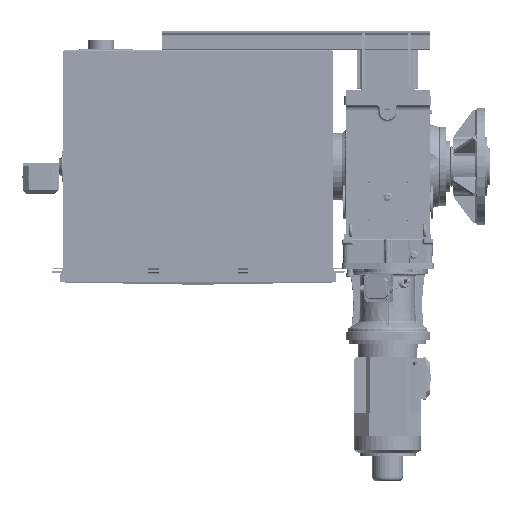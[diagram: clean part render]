
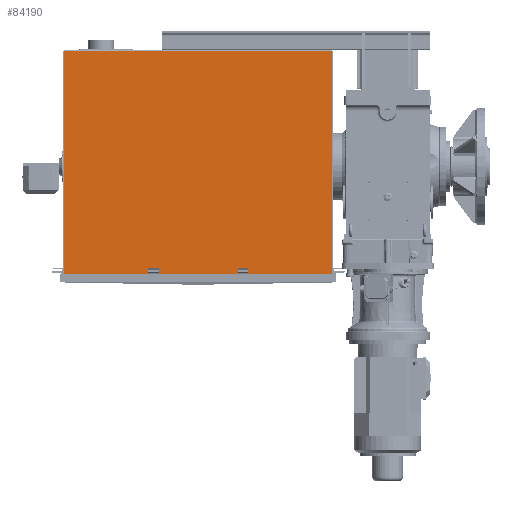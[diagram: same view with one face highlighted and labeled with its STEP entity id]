
A CAD part, top view. The second image highlights one B-rep face of the part: STEP entity #84190.
In plain terms, the highlighted planar face has unit normal (0, 0, 1).
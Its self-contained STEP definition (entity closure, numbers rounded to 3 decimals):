
#4977=PLANE('',#91504);
#9838=LINE('',#154670,#15473);
#9848=LINE('',#154690,#15483);
#9849=LINE('',#154692,#15484);
#9866=LINE('',#154733,#15501);
#9872=LINE('',#154744,#15507);
#9873=LINE('',#154747,#15508);
#9874=LINE('',#154749,#15509);
#9875=LINE('',#154751,#15510);
#9876=LINE('',#154753,#15511);
#9877=LINE('',#154755,#15512);
#9878=LINE('',#154757,#15513);
#9879=LINE('',#154758,#15514);
#9880=LINE('',#154761,#15515);
#9881=LINE('',#154763,#15516);
#9882=LINE('',#154765,#15517);
#9883=LINE('',#154766,#15518);
#9884=LINE('',#154769,#15519);
#9885=LINE('',#154771,#15520);
#9886=LINE('',#154773,#15521);
#9887=LINE('',#154774,#15522);
#15473=VECTOR('',#110140,894.016);
#15483=VECTOR('',#110156,894.016);
#15484=VECTOR('',#110159,1051.);
#15501=VECTOR('',#110198,51.016);
#15507=VECTOR('',#110206,51.016);
#15508=VECTOR('',#110209,2.976);
#15509=VECTOR('',#110210,2.976);
#15510=VECTOR('',#110211,1.984);
#15511=VECTOR('',#110212,0.992);
#15512=VECTOR('',#110213,945.);
#15513=VECTOR('',#110214,0.992);
#15514=VECTOR('',#110215,1.984);
#15515=VECTOR('',#110216,40.);
#15516=VECTOR('',#110217,40.);
#15517=VECTOR('',#110218,40.);
#15518=VECTOR('',#110219,40.);
#15519=VECTOR('',#110220,40.);
#15520=VECTOR('',#110221,40.);
#15521=VECTOR('',#110222,40.);
#15522=VECTOR('',#110223,40.);
#17718=FACE_BOUND('',#27568,.T.);
#17719=FACE_BOUND('',#27569,.T.);
#21885=FACE_OUTER_BOUND('',#27567,.T.);
#27567=EDGE_LOOP('',(#69480,#69481,#69482,#69483,#69484,#69485,#69486,#69487,
#69488,#69489,#69490,#69491));
#27568=EDGE_LOOP('',(#69492,#69493,#69494,#69495));
#27569=EDGE_LOOP('',(#69496,#69497,#69498,#69499));
#38604=VERTEX_POINT('',#154667);
#38605=VERTEX_POINT('',#154669);
#38609=VERTEX_POINT('',#154682);
#38612=VERTEX_POINT('',#154688);
#38625=VERTEX_POINT('',#154731);
#38627=VERTEX_POINT('',#154738);
#38630=VERTEX_POINT('',#154746);
#38631=VERTEX_POINT('',#154748);
#38632=VERTEX_POINT('',#154750);
#38633=VERTEX_POINT('',#154752);
#38634=VERTEX_POINT('',#154754);
#38635=VERTEX_POINT('',#154756);
#38636=VERTEX_POINT('',#154759);
#38637=VERTEX_POINT('',#154760);
#38638=VERTEX_POINT('',#154762);
#38639=VERTEX_POINT('',#154764);
#38640=VERTEX_POINT('',#154767);
#38641=VERTEX_POINT('',#154768);
#38642=VERTEX_POINT('',#154770);
#38643=VERTEX_POINT('',#154772);
#49177=EDGE_CURVE('',#38604,#38605,#9838,.T.);
#49188=EDGE_CURVE('',#38612,#38609,#9848,.T.);
#49189=EDGE_CURVE('',#38604,#38609,#9849,.T.);
#49211=EDGE_CURVE('',#38625,#38612,#9866,.T.);
#49217=EDGE_CURVE('',#38605,#38627,#9872,.T.);
#49218=EDGE_CURVE('',#38630,#38627,#9873,.T.);
#49219=EDGE_CURVE('',#38625,#38631,#9874,.T.);
#49220=EDGE_CURVE('',#38631,#38632,#9875,.T.);
#49221=EDGE_CURVE('',#38632,#38633,#9876,.T.);
#49222=EDGE_CURVE('',#38633,#38634,#9877,.T.);
#49223=EDGE_CURVE('',#38634,#38635,#9878,.T.);
#49224=EDGE_CURVE('',#38635,#38630,#9879,.T.);
#49225=EDGE_CURVE('',#38636,#38637,#9880,.T.);
#49226=EDGE_CURVE('',#38637,#38638,#9881,.T.);
#49227=EDGE_CURVE('',#38638,#38639,#9882,.T.);
#49228=EDGE_CURVE('',#38639,#38636,#9883,.T.);
#49229=EDGE_CURVE('',#38640,#38641,#9884,.T.);
#49230=EDGE_CURVE('',#38641,#38642,#9885,.T.);
#49231=EDGE_CURVE('',#38642,#38643,#9886,.T.);
#49232=EDGE_CURVE('',#38643,#38640,#9887,.T.);
#69480=ORIENTED_EDGE('',*,*,#49218,.T.);
#69481=ORIENTED_EDGE('',*,*,#49217,.F.);
#69482=ORIENTED_EDGE('',*,*,#49177,.F.);
#69483=ORIENTED_EDGE('',*,*,#49189,.T.);
#69484=ORIENTED_EDGE('',*,*,#49188,.F.);
#69485=ORIENTED_EDGE('',*,*,#49211,.F.);
#69486=ORIENTED_EDGE('',*,*,#49219,.T.);
#69487=ORIENTED_EDGE('',*,*,#49220,.T.);
#69488=ORIENTED_EDGE('',*,*,#49221,.T.);
#69489=ORIENTED_EDGE('',*,*,#49222,.T.);
#69490=ORIENTED_EDGE('',*,*,#49223,.T.);
#69491=ORIENTED_EDGE('',*,*,#49224,.T.);
#69492=ORIENTED_EDGE('',*,*,#49225,.T.);
#69493=ORIENTED_EDGE('',*,*,#49226,.T.);
#69494=ORIENTED_EDGE('',*,*,#49227,.T.);
#69495=ORIENTED_EDGE('',*,*,#49228,.T.);
#69496=ORIENTED_EDGE('',*,*,#49229,.T.);
#69497=ORIENTED_EDGE('',*,*,#49230,.T.);
#69498=ORIENTED_EDGE('',*,*,#49231,.T.);
#69499=ORIENTED_EDGE('',*,*,#49232,.T.);
#84190=ADVANCED_FACE('',(#21885,#17718,#17719),#4977,.F.);
#91504=AXIS2_PLACEMENT_3D('',#154745,#110207,#110208);
#110140=DIRECTION('',(0.,-1.,0.));
#110156=DIRECTION('',(0.,1.,0.));
#110159=DIRECTION('',(-1.,0.,0.));
#110198=DIRECTION('',(-1.,0.,0.));
#110206=DIRECTION('',(-1.,0.,0.));
#110207=DIRECTION('center_axis',(0.,0.,
-1.));
#110208=DIRECTION('ref_axis',(1.,0.,0.));
#110209=DIRECTION('',(0.,-1.,0.));
#110210=DIRECTION('',(0.,1.,0.));
#110211=DIRECTION('',(1.,0.,0.));
#110212=DIRECTION('',(0.,-1.,0.));
#110213=DIRECTION('',(1.,0.,0.));
#110214=DIRECTION('',(0.,1.,0.));
#110215=DIRECTION('',(1.,0.,0.));
#110216=DIRECTION('',(0.,1.,0.));
#110217=DIRECTION('',(1.,0.,0.));
#110218=DIRECTION('',(0.,-1.,0.));
#110219=DIRECTION('',(-1.,0.,0.));
#110220=DIRECTION('',(0.,1.,0.));
#110221=DIRECTION('',(1.,0.,0.));
#110222=DIRECTION('',(0.,-1.,0.));
#110223=DIRECTION('',(-1.,0.,0.));
#154667=CARTESIAN_POINT('',(-345.482,241.483,872.238));
#154669=CARTESIAN_POINT('',(-345.482,-652.534,872.238));
#154670=CARTESIAN_POINT('',(-345.482,241.483,872.238));
#154682=CARTESIAN_POINT('',(-1396.482,241.483,872.238));
#154688=CARTESIAN_POINT('',(-1396.482,-652.534,872.238));
#154690=CARTESIAN_POINT('',(-1396.482,250.457,872.238));
#154692=CARTESIAN_POINT('',(-870.982,241.483,872.238));
#154731=CARTESIAN_POINT('',(-1345.466,-652.534,872.238));
#154733=CARTESIAN_POINT('',(-345.482,-652.534,872.238));
#154738=CARTESIAN_POINT('',(-396.499,-652.534,872.238));
#154744=CARTESIAN_POINT('',(-345.482,-652.534,872.238));
#154745=CARTESIAN_POINT('Origin',(-870.982,-200.782,872.238));
#154746=CARTESIAN_POINT('',(-396.499,-649.558,872.238));
#154747=CARTESIAN_POINT('',(-396.499,-426.658,872.238));
#154748=CARTESIAN_POINT('',(-1345.466,-649.558,872.238));
#154749=CARTESIAN_POINT('',(-1345.466,-425.17,872.238));
#154750=CARTESIAN_POINT('',(-1343.482,-649.558,872.238));
#154751=CARTESIAN_POINT('',(-1107.232,-649.558,872.238));
#154752=CARTESIAN_POINT('',(-1343.482,-650.55,872.238));
#154753=CARTESIAN_POINT('',(-1343.482,-426.658,872.238));
#154754=CARTESIAN_POINT('',(-398.482,-650.55,872.238));
#154755=CARTESIAN_POINT('',(-634.732,-650.55,872.238));
#154756=CARTESIAN_POINT('',(-398.482,-649.558,872.238));
#154757=CARTESIAN_POINT('',(-398.482,-425.17,872.238));
#154758=CARTESIAN_POINT('',(-633.74,-649.558,872.238));
#154759=CARTESIAN_POINT('',(-1065.982,-646.817,872.238));
#154760=CARTESIAN_POINT('',(-1065.982,-606.817,872.238));
#154761=CARTESIAN_POINT('',(-1065.982,-409.737,872.238));
#154762=CARTESIAN_POINT('',(-1025.982,-606.817,872.238));
#154763=CARTESIAN_POINT('',(-958.482,-606.817,872.238));
#154764=CARTESIAN_POINT('',(-1025.982,-646.817,872.238));
#154765=CARTESIAN_POINT('',(-1025.982,-409.737,872.238));
#154766=CARTESIAN_POINT('',(-958.482,-646.817,872.238));
#154767=CARTESIAN_POINT('',(-715.982,-646.817,872.238));
#154768=CARTESIAN_POINT('',(-715.982,-606.817,872.238));
#154769=CARTESIAN_POINT('',(-715.982,-409.737,872.238));
#154770=CARTESIAN_POINT('',(-675.982,-606.817,872.238));
#154771=CARTESIAN_POINT('',(-783.482,-606.817,872.238));
#154772=CARTESIAN_POINT('',(-675.982,-646.817,872.238));
#154773=CARTESIAN_POINT('',(-675.982,-409.737,872.238));
#154774=CARTESIAN_POINT('',(-783.482,-646.817,872.238));
